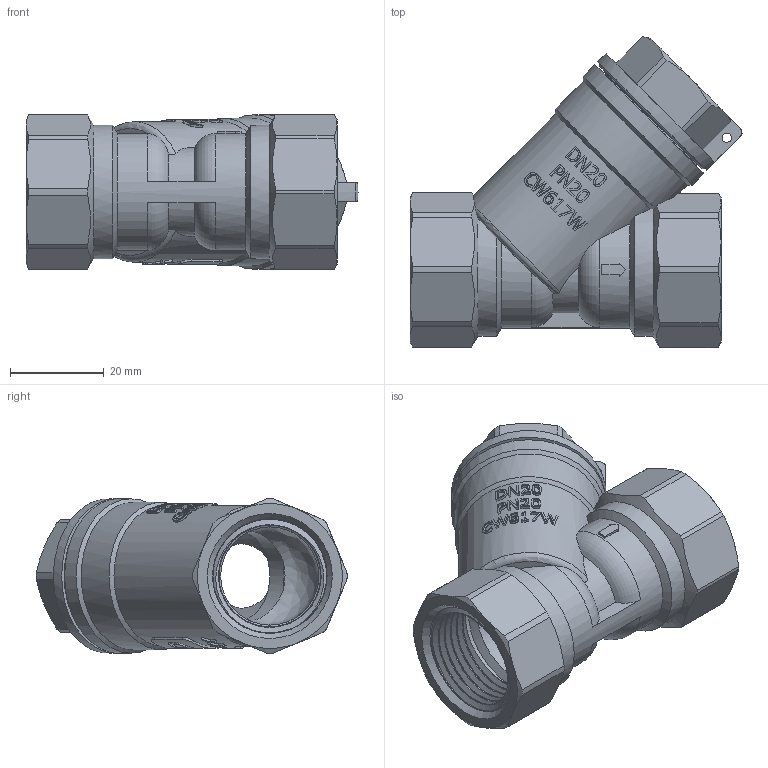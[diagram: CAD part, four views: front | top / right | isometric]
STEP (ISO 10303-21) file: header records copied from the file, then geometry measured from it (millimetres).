
FILE_DESCRIPTION(/* description */ (''),/* implementation_level */ '2;1');
FILE_NAME(/* name */ 'C:\Users\Doom\Desktop\Фадотех\2\F12 23.08.2021\F12 23.08.2021.stp',/* time_stamp */ '2021-12-16T01:29:38+02:00',/* author */ ('Doom'),/* organization */ (''),/* preprocessor_version */ 'ST-DEVELOPER v18',/* originating_system */ 'Autodesk Inventor 2020',/* authorisation */ '');
FILE_SCHEMA (('AUTOMOTIVE_DESIGN { 1 0 10303 214 3 1 1 }'));
Length unit declared in the file: millimetre
Products named in the file (3): F12 23.08.2021; 20-01532-G20-5720; 20-01532-G20-0620-4210
Assembly tree (2 placements, depth 2):
  F12 23.08.2021
    20-01532-G20-5720
    20-01532-G20-0620-4210
Bounding box: 70.97 x 66.51 x 33 mm (x, y, z)
Volume: 34149.1 mm3; surface area: 29218.8 mm2
Topology: 6 solids, 6 shells, 503 faces, 1386 edges, 922 vertices
Faces by surface type: bspline 293, cylinder 106, plane 58, cone 38, torus 8
Full cylindrical faces by diameter (mm): 2 x1, 19 x1, 20.5 x1, 21 x2, 21.31 x6, 21.759 x6, 23.2 x1, 23.5 x1, 24 x2, 24.276 x6, 24.45 x2, 26.5 x2, 26.517 x2, 28 x7, 28.682 x1, 31.5 x1, 33 x2
Entity records: 35401 total; most frequent: CARTESIAN_POINT 24828, ORIENTED_EDGE 2748, EDGE_CURVE 1374, DIRECTION 1200, VERTEX_POINT 916, B_SPLINE_CURVE_WITH_KNOTS 725, EDGE_LOOP 550, FACE_OUTER_BOUND 503
